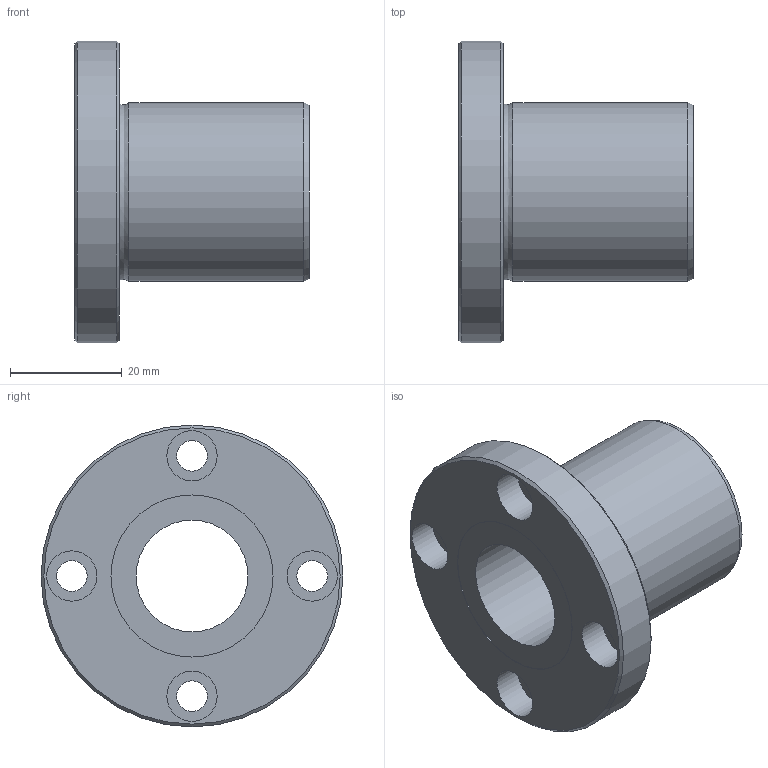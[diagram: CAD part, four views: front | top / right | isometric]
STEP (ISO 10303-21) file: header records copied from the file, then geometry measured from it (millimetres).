
FILE_DESCRIPTION((''),'2;1');
FILE_NAME('D:\製品 (図面)\カタログ用3D\リニアベアリング関連\STEP形式\LF\LF20.stp','2010-06-03T09:13:41',('Tsuchiya'),(''),'Autodesk Inventor 10','Autodesk Inventor 10','');
FILE_SCHEMA(('AUTOMOTIVE_DESIGN { 1 0 10303 214 1 1 1 1 }'));
Length unit declared in the file: millimetre
Products named in the file (1): LF20
Bounding box: 42 x 54 x 54 mm (x, y, z)
Volume: 30681.2 mm3; surface area: 11861.4 mm2
Topology: 1 solids, 1 shells, 26 faces, 47 edges, 30 vertices
Faces by surface type: cylinder 13, plane 9, cone 2, torus 1, bspline 1
Full cylindrical faces by diameter (mm): 5.5 x4, 9 x4, 20 x1, 29 x2, 32 x1, 54 x1
Entity records: 665 total; most frequent: CARTESIAN_POINT 149, DIRECTION 112, ORIENTED_EDGE 60, EDGE_LOOP 60, AXIS2_PLACEMENT_3D 56, FACE_BOUND 34, VERTEX_POINT 30, CIRCLE 30
